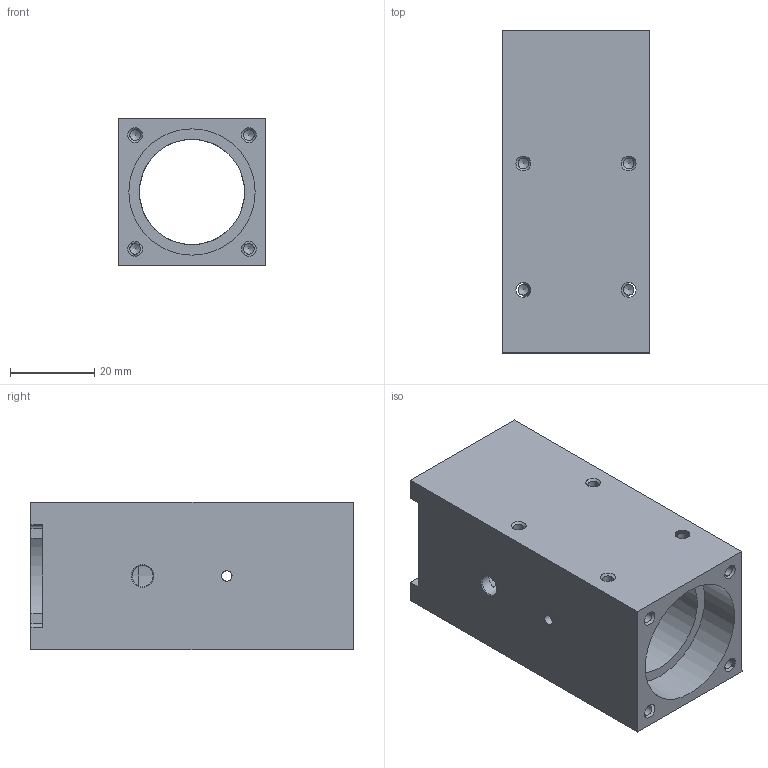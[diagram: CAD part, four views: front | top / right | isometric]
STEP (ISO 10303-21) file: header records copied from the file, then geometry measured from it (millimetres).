
FILE_DESCRIPTION(/* description */ (''),/* implementation_level */ '2;1');
FILE_NAME(/* name */ 'D:/кек/АНЦП.014_спека_чертежи_step/АНЦП.014.00.00.003 v2.step',/* time_stamp */ '2021-11-09T09:46:04+03:00',/* author */ (''),/* organization */ (''),/* preprocessor_version */ 'ST-DEVELOPER v18.1',/* originating_system */ 'Autodesk Translation Framework v10.10.0.1391',/* authorisation */ '');
FILE_SCHEMA (('AUTOMOTIVE_DESIGN { 1 0 10303 214 3 1 1 }'));
Length unit declared in the file: millimetre
Products named in the file (1): АНЦП.014.00.00.003
Bounding box: 35 x 76.5 x 35 mm (x, y, z)
Volume: 47561.5 mm3; surface area: 19435.9 mm2
Topology: 1 solids, 1 shells, 82 faces, 232 edges, 150 vertices
Faces by surface type: cylinder 36, cone 29, plane 17
Full cylindrical faces by diameter (mm): 2.05 x4, 2.5 x26, 5 x1, 25 x1, 30 x2
Entity records: 2864 total; most frequent: CARTESIAN_POINT 563, DIRECTION 484, ORIENTED_EDGE 436, EDGE_CURVE 218, AXIS2_PLACEMENT_3D 190, VERTEX_POINT 150, CIRCLE 107, LINE 104
